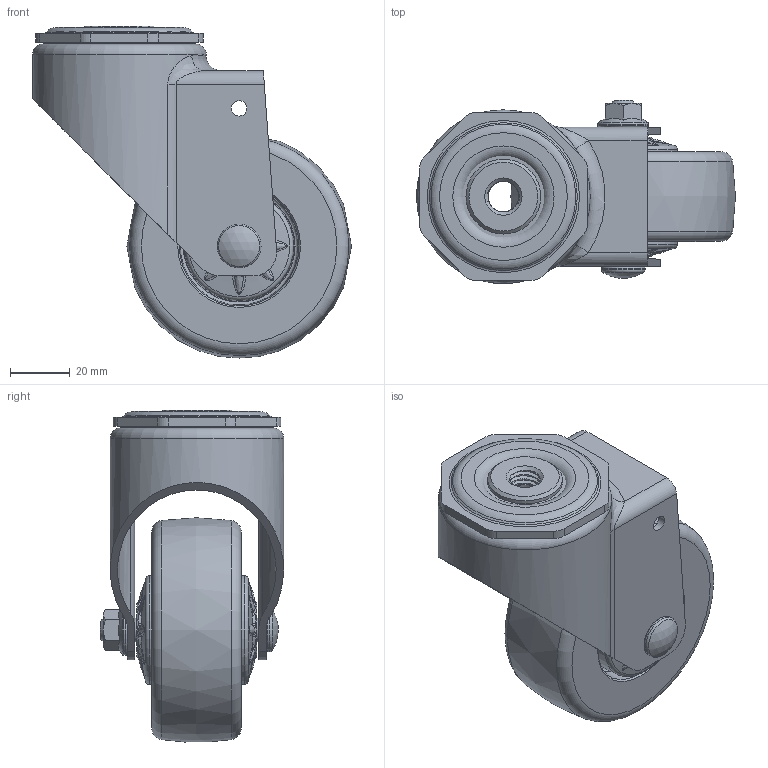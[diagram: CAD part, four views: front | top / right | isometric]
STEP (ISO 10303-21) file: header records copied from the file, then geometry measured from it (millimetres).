
FILE_DESCRIPTION(/* description */ (''),/* implementation_level */ '2;1');
FILE_NAME(/* name */ '22 v4.step',/* time_stamp */ '2024-05-08T08:29:54+09:00',/* author */ (''),/* organization */ (''),/* preprocessor_version */ 'ST-DEVELOPER v20',/* originating_system */ 'Autodesk Translation Framework v12.20.1.177',/* authorisation */ '');
FILE_SCHEMA (('AUTOMOTIVE_DESIGN { 1 0 10303 214 3 1 1 }'));
Length unit declared in the file: millimetre
Products named in the file (10): 22; PL-75A SF YOKE; KINGPIN-3D; BRG_CASE-3D; UNDER_COVER; SHAFT-3D; 222; ss v2; wheel TREAD; PL-75_LUD WHEELCOVER
Assembly tree (10 placements, depth 3):
  22
    PL-75A SF YOKE
      KINGPIN-3D
      BRG_CASE-3D
      UNDER_COVER
      SHAFT-3D
      222
      ss v2
      wheel TREAD
      PL-75_LUD WHEELCOVER  x2
Bounding box: 106.5 x 61.25 x 110.9 mm (x, y, z)
Volume: 214157 mm3; surface area: 76992.4 mm2
Topology: 10 solids, 10 shells, 363 faces, 849 edges, 534 vertices
Faces by surface type: bspline 87, plane 86, cylinder 77, cone 62, torus 50, sphere 1
Full cylindrical faces by diameter (mm): 5.2 x2, 6.912 x1, 8 x2, 8.2 x2, 10.274 x7, 10.441 x1, 12.227 x6, 12.5 x1, 14.6 x1, 15.5 x1, 17 x1, 22 x2, 25 x1, 34 x2, 36 x1, 37 x2, 39.05 x1, 41 x1, 53 x1, 58 x1
Entity records: 14762 total; most frequent: CARTESIAN_POINT 7818, DIRECTION 1393, ORIENTED_EDGE 1376, EDGE_CURVE 688, AXIS2_PLACEMENT_3D 596, VERTEX_POINT 433, EDGE_LOOP 349, CIRCLE 314
